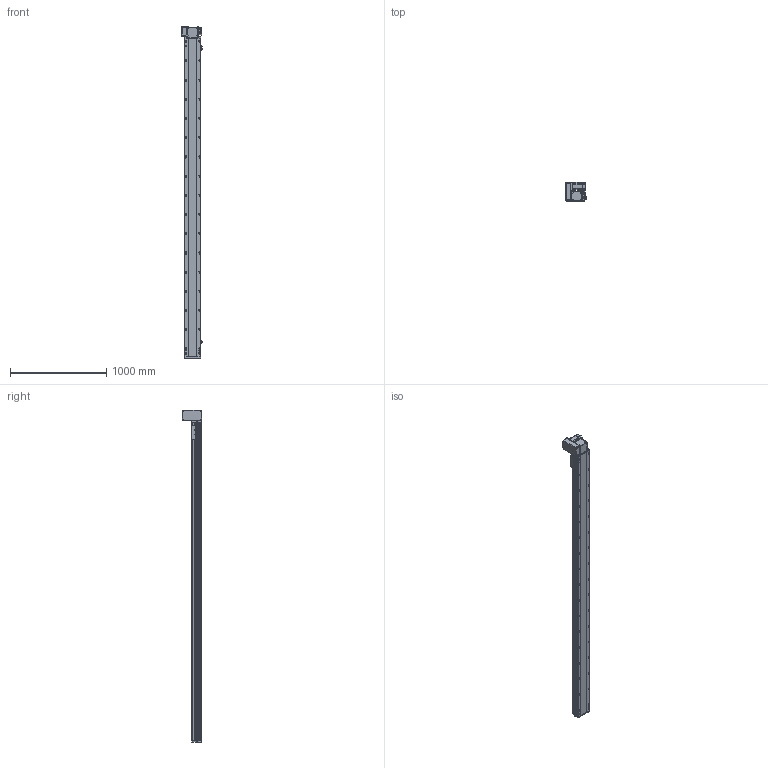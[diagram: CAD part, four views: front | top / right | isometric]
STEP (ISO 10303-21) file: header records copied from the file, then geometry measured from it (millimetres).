
FILE_DESCRIPTION (( 'STEP AP214' ), '1' );
FILE_NAME ('RTB17S-XX-3050-LW-M75-C4.STEP', '2025-12-12T01:20:27', ( '' ), ( '' ), 'SwSTEP 2.0', 'SolidWorks 2018', '' );
FILE_SCHEMA (( 'AUTOMOTIVE_DESIGN' ));
Length unit declared in the file: millimetre
Products named in the file (15): RTB17S-L-007奻裔^RTB17S-XX-XX-LW-M75-C4; 750W萇儂^RTB17S-XX-XX-LW-M75-C4; RTB17S-賑釱^RTB17S-XX-XX-LW-M75-C4; RTB17S-LW-々湍釱蚾饜-750W^RTB17S-XX-XX-LW-M75-C4; RTB22S-GY-005P^RTB17S-LW-々湍釱蚾饜-750W_RTB17S-XX-XX-LW-M75-C4; RTB22S-GY-018P^RTB17S-LW-々湍釱蚾饜-750W_RTB17S-XX-XX-LW-M75-C4; RTB17S-L-014-T20-P75--々湍釱^RTB17S-LW-々湍釱蚾饜-750W_RTB17S-XX-XX-LW-M75-C4; RTB17S-L-004-賑釱^RTB17S-賑釱_RTB17S-XX-XX-LW-M75-C4; EE672^RTB17S-XX-XX-LW-M75-C4; RTB22S-GY-008-M75--萇儂啣^RTB17S-LW-々湍釱蚾饜-750W_RTB17S-XX-XX-LW-M75-C4; RTB17-R-011菁釱^RTB17S-XX-XX-LW-M75-C4; RTB17S-XX-3050-LW-M75-C4; RTB22S-GY-017P^RTB17S-LW-々湍釱蚾饜-750W_RTB17S-XX-XX-LW-M75-C4; RTH13-BL-012覜茼え俋离^RTB17S-賑釱_RTB17S-XX-XX-LW-M75-C4; RTB17S-L-001-耜醱啣^RTB17S-XX-XX-LW-M75-C4
Assembly tree (17 placements, depth 3):
  RTB17S-XX-3050-LW-M75-C4
    RTB17-R-011菁釱^RTB17S-XX-XX-LW-M75-C4
    EE672^RTB17S-XX-XX-LW-M75-C4  x3
    RTB17S-L-001-耜醱啣^RTB17S-XX-XX-LW-M75-C4
    RTB17S-賑釱^RTB17S-XX-XX-LW-M75-C4
      RTB17S-L-004-賑釱^RTB17S-賑釱_RTB17S-XX-XX-LW-M75-C4
      RTH13-BL-012覜茼え俋离^RTB17S-賑釱_RTB17S-XX-XX-LW-M75-C4
    RTB17S-L-007奻裔^RTB17S-XX-XX-LW-M75-C4
    750W萇儂^RTB17S-XX-XX-LW-M75-C4
    RTB17S-LW-々湍釱蚾饜-750W^RTB17S-XX-XX-LW-M75-C4
      RTB17S-L-014-T20-P75--々湍釱^RTB17S-LW-々湍釱蚾饜-750W_RTB17S-XX-XX-LW-M75-C4
      RTB22S-GY-005P^RTB17S-LW-々湍釱蚾饜-750W_RTB17S-XX-XX-LW-M75-C4
      RTB22S-GY-017P^RTB17S-LW-々湍釱蚾饜-750W_RTB17S-XX-XX-LW-M75-C4  x2
      RTB22S-GY-008-M75--萇儂啣^RTB17S-LW-々湍釱蚾饜-750W_RTB17S-XX-XX-LW-M75-C4
      RTB22S-GY-018P^RTB17S-LW-々湍釱蚾饜-750W_RTB17S-XX-XX-LW-M75-C4
Bounding box: 210.4 x 201.5 x 3457.5 mm (x, y, z)
Volume: 25010772.5 mm3; surface area: 4590792.6 mm2
Topology: 17 solids, 17 shells, 2265 faces, 6376 edges, 4130 vertices
Faces by surface type: plane 992, cylinder 857, bspline 294, cone 110, sphere 8, torus 4
Entity records: 66550 total; most frequent: CARTESIAN_POINT 19840, ORIENTED_EDGE 9596, DIRECTION 8852, EDGE_CURVE 4798, AXIS2_PLACEMENT_3D 3150, VERTEX_POINT 3134, VECTOR 2552, LINE 2552
